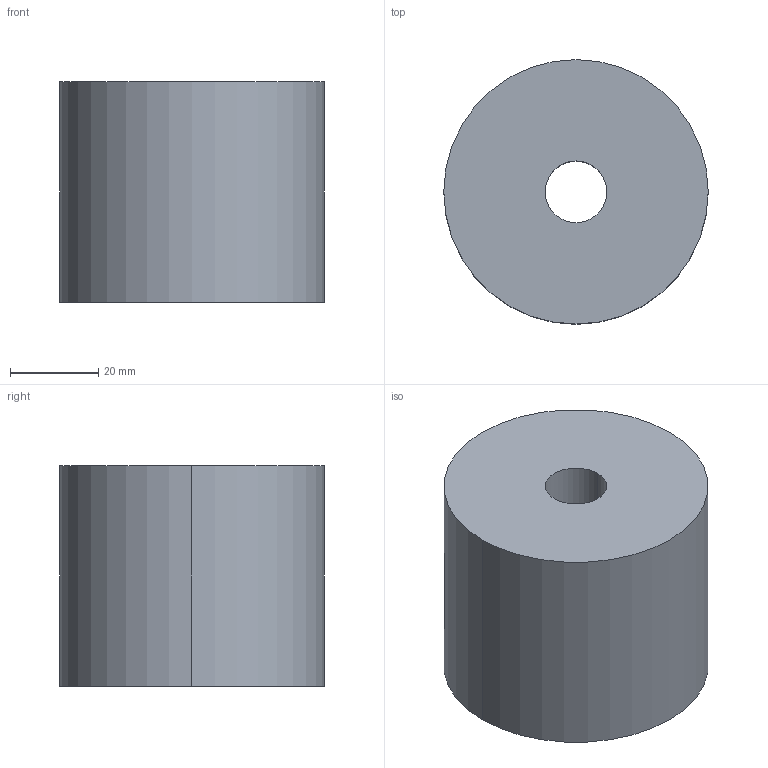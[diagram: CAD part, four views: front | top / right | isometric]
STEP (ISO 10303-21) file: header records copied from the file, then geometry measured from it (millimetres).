
FILE_DESCRIPTION(/* description */ (''),/* implementation_level */ '2;1');
FILE_NAME(/* name */ '3d_pa60-50_04916_r00.stp',/* time_stamp */ '2011-01-10T14:11:58+09:00',/* author */ ('MISUMI'),/* organization */ (''),/* preprocessor_version */ 'ST-DEVELOPER v11',/* originating_system */ 'UGS - NX 5.0',/* authorisation */ '');
FILE_SCHEMA (('CONFIG_CONTROL_DESIGN'));
Length unit declared in the file: millimetre
Products named in the file (1): 3d_pa60-50_04916_r00
Bounding box: 60 x 60 x 50 mm (x, y, z)
Volume: 133674.8 mm3; surface area: 16970.9 mm2
Topology: 1 solids, 1 shells, 6 faces, 12 edges, 8 vertices
Faces by surface type: cylinder 4, plane 2
Entity records: 254 total; most frequent: DIRECTION 34, CARTESIAN_POINT 27, ORIENTED_EDGE 24, AXIS2_PLACEMENT_3D 15, EDGE_CURVE 12, EDGE_LOOP 8, VERTEX_POINT 8, CIRCLE 8
